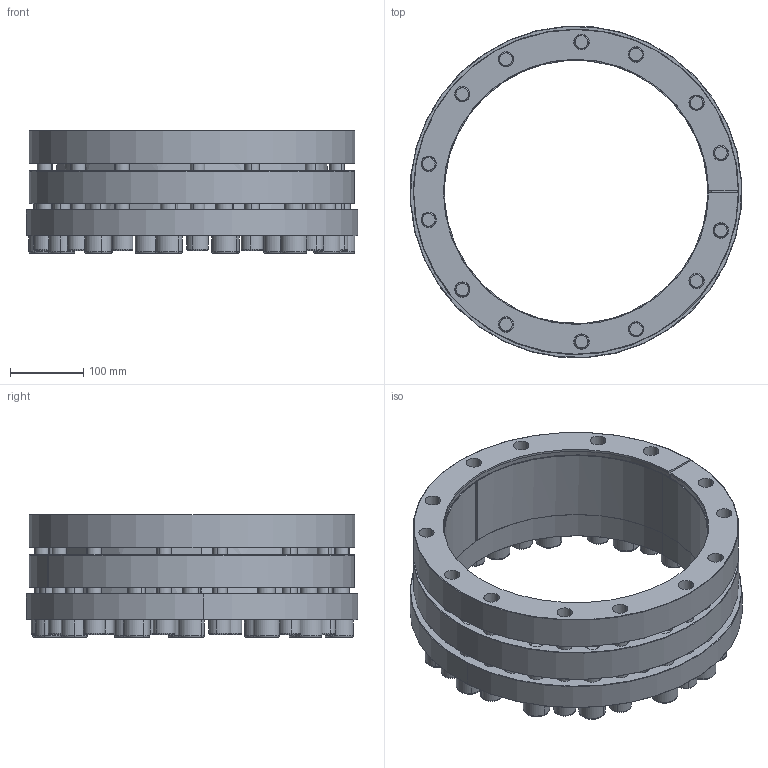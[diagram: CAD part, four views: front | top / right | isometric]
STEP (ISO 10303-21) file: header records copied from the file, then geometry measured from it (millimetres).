
FILE_DESCRIPTION (( 'STEP AP214' ), '1' );
FILE_NAME ('CONEX-P-360x445-P-012.step', '2015-11-30T21:14:38', ( '' ), ( '' ), 'SwSTEP 2.0', 'SolidWorks 2013', '' );
FILE_SCHEMA (( 'AUTOMOTIVE_DESIGN' ));
Length unit declared in the file: millimetre
Products named in the file (1): CONEX-P-360x445-P-012
Bounding box: 452.87 x 452.87 x 168.01 mm (x, y, z)
Volume: 7402227.6 mm3; surface area: 1338017.6 mm2
Topology: 31 solids, 31 shells, 969 faces, 2232 edges, 1326 vertices
Faces by surface type: plane 441, cylinder 276, cone 138, torus 114
Entity records: 38253 total; most frequent: DIRECTION 5132, CARTESIAN_POINT 4588, ORIENTED_EDGE 4352, EDGE_CURVE 2176, AXIS2_PLACEMENT_3D 2014, VERTEX_POINT 1326, EDGE_LOOP 1180, VECTOR 1104
